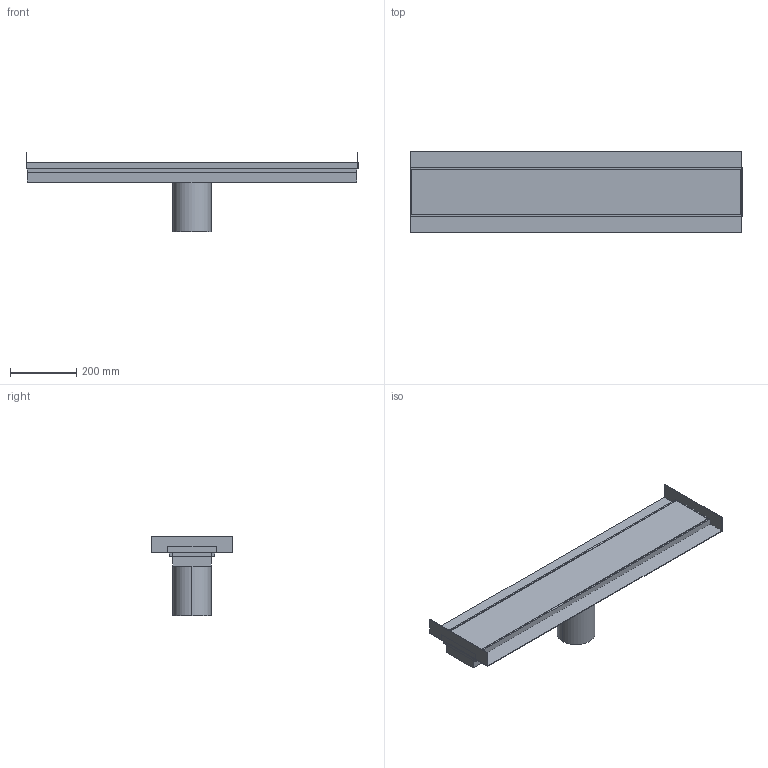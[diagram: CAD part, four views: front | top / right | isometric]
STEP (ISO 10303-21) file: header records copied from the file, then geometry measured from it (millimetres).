
FILE_DESCRIPTION(/* description */ (''),/* implementation_level */ '2;1');
FILE_NAME(/* name */ 'E:\Workspace\resitec\Packs\Kategorie\Entwässerungsrinne\STP\RS770K.045Entwässerungsrinne Rand 4.5mm-2xZargeL+R-2xKR50V+H.s.ipt.stp',/* time_stamp */ '2020-10-04T20:55:53+02:00',/* author */ ('ndmes'),/* organization */ (''),/* preprocessor_version */ 'ST-DEVELOPER v18.1',/* originating_system */ 'Autodesk Inventor 2021',/* authorisation */ '');
FILE_SCHEMA (('AUTOMOTIVE_DESIGN { 1 0 10303 214 3 1 1 }'));
Length unit declared in the file: millimetre
Products named in the file (1): RS770K.045Entwässerungsrinne Rand 4.5mm-2xZargeL+R-2xKR50V+H.s
Bounding box: 1000 x 246 x 240 mm (x, y, z)
Volume: 11137067.3 mm3; surface area: 1660845.2 mm2
Topology: 8 solids, 8 shells, 51 faces, 105 edges, 70 vertices
Faces by surface type: plane 49, cylinder 2
Entity records: 1361 total; most frequent: CARTESIAN_POINT 227, DIRECTION 213, ORIENTED_EDGE 210, EDGE_CURVE 105, LINE 101, VECTOR 101, VERTEX_POINT 70, AXIS2_PLACEMENT_3D 56
